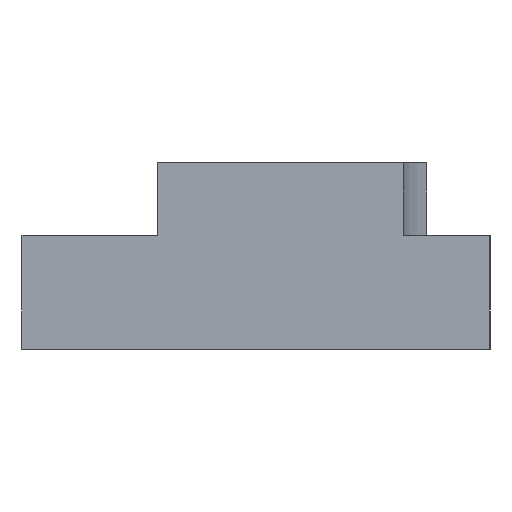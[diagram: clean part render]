
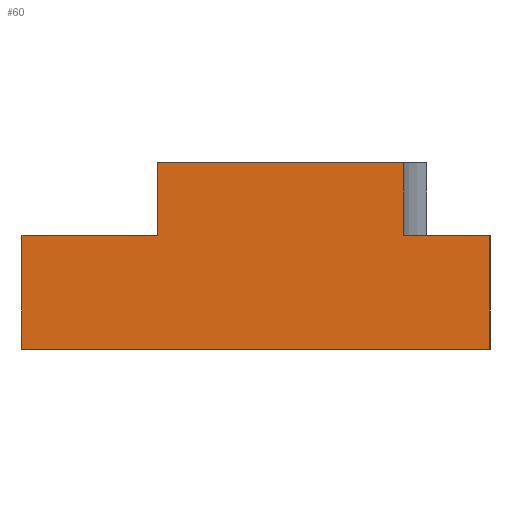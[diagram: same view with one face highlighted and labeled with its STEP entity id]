
A CAD part, left-side view. The second image highlights one B-rep face of the part: STEP entity #60.
In plain terms, the highlighted planar face has unit normal (-1, 0, 0).
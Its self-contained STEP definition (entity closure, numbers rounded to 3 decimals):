
#60=ADVANCED_FACE('',(#317),#319,.F.);
#317=FACE_BOUND('',#318,.T.);
#318=EDGE_LOOP('',(#1468,#1469,#1470,#1471,#1472,#1473,#1474,#1475));
#319=PLANE('',#320);
#320=AXIS2_PLACEMENT_3D('',#321,#322,#323);
#321=CARTESIAN_POINT('',(0.,0.,0.));
#322=DIRECTION('',(1.,0.,0.));
#323=DIRECTION('',(0.,1.,0.));
#1468=ORIENTED_EDGE('',*,*,#2308,.F.);
#1469=ORIENTED_EDGE('',*,*,#2358,.F.);
#1470=ORIENTED_EDGE('',*,*,#2360,.F.);
#1471=ORIENTED_EDGE('',*,*,#2361,.F.);
#1472=ORIENTED_EDGE('',*,*,#2362,.F.);
#1473=ORIENTED_EDGE('',*,*,#2363,.F.);
#1474=ORIENTED_EDGE('',*,*,#2364,.F.);
#1475=ORIENTED_EDGE('',*,*,#2365,.F.);
#2308=EDGE_CURVE('',#2773,#2775,#2776,.T.);
#2358=EDGE_CURVE('',#2865,#2773,#2866,.T.);
#2360=EDGE_CURVE('',#2868,#2865,#2869,.T.);
#2361=EDGE_CURVE('',#2870,#2868,#2871,.T.);
#2362=EDGE_CURVE('',#2872,#2870,#2873,.T.);
#2363=EDGE_CURVE('',#2874,#2872,#2875,.T.);
#2364=EDGE_CURVE('',#2876,#2874,#2877,.T.);
#2365=EDGE_CURVE('',#2775,#2876,#2878,.T.);
#2773=VERTEX_POINT('',#3571);
#2775=VERTEX_POINT('',#3575);
#2776=LINE('',#3576,#3577);
#2865=VERTEX_POINT('',#3786);
#2866=LINE('',#3787,#3788);
#2868=VERTEX_POINT('',#3793);
#2869=LINE('',#3794,#3795);
#2870=VERTEX_POINT('',#3797);
#2871=LINE('',#3798,#3799);
#2872=VERTEX_POINT('',#3801);
#2873=LINE('',#3802,#3803);
#2874=VERTEX_POINT('',#3805);
#2875=LINE('',#3806,#3807);
#2876=VERTEX_POINT('',#3809);
#2877=LINE('',#3810,#3811);
#2878=LINE('',#3813,#3814);
#3571=CARTESIAN_POINT('',(0.,21.,11.8));
#3575=CARTESIAN_POINT('',(0.,5.5,11.8));
#3576=CARTESIAN_POINT('',(0.,21.,11.8));
#3577=VECTOR('',#3578,1.);
#3578=DIRECTION('',(0.,-1.,0.));
#3786=CARTESIAN_POINT('',(0.,21.,7.2));
#3787=CARTESIAN_POINT('',(0.,21.,7.2));
#3788=VECTOR('',#3789,1.);
#3789=DIRECTION('',(0.,0.,1.));
#3793=CARTESIAN_POINT('',(0.,29.6,7.2));
#3794=CARTESIAN_POINT('',(0.,29.6,7.2));
#3795=VECTOR('',#3796,1.);
#3796=DIRECTION('',(0.,-1.,0.));
#3797=CARTESIAN_POINT('',(0.,29.6,0.));
#3798=CARTESIAN_POINT('',(0.,29.6,0.));
#3799=VECTOR('',#3800,1.);
#3800=DIRECTION('',(0.,0.,1.));
#3801=CARTESIAN_POINT('',(0.,0.,0.));
#3802=CARTESIAN_POINT('',(0.,0.,0.));
#3803=VECTOR('',#3804,1.);
#3804=DIRECTION('',(0.,1.,0.));
#3805=CARTESIAN_POINT('',(0.,0.,7.2));
#3806=CARTESIAN_POINT('',(0.,0.,7.2));
#3807=VECTOR('',#3808,1.);
#3808=DIRECTION('',(0.,0.,-1.));
#3809=CARTESIAN_POINT('',(0.,5.5,7.2));
#3810=CARTESIAN_POINT('',(0.,5.5,7.2));
#3811=VECTOR('',#3812,1.);
#3812=DIRECTION('',(0.,-1.,0.));
#3813=CARTESIAN_POINT('',(0.,5.5,11.8));
#3814=VECTOR('',#3815,1.);
#3815=DIRECTION('',(0.,0.,-1.));
